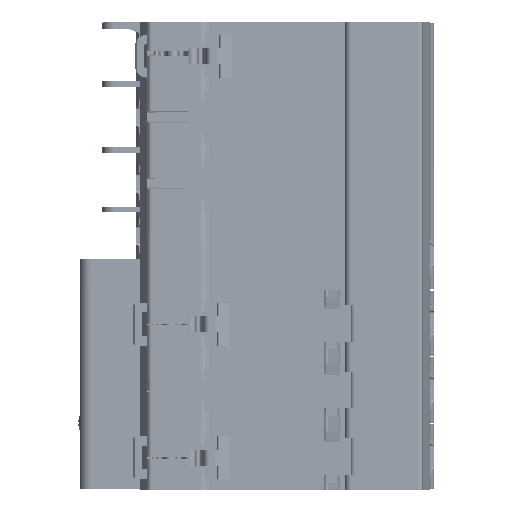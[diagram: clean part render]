
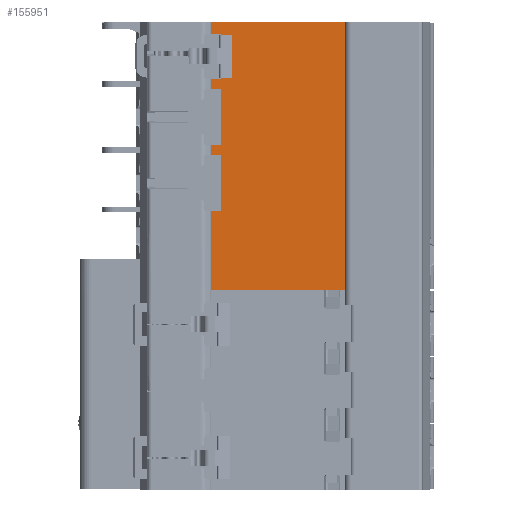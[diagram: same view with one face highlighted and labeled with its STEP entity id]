
A CAD part, front view. The second image highlights one B-rep face of the part: STEP entity #155951.
In plain terms, the highlighted planar face has unit normal (0, -1, 0).
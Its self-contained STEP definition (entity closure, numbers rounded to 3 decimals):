
#4322=DIRECTION('',(0.,0.,1.));
#4323=VECTOR('',#4322,71.1);
#4324=CARTESIAN_POINT('',(39.8,-37.,-14.4));
#4325=LINE('',#4324,#4323);
#4334=DIRECTION('',(1.,0.,0.));
#4335=VECTOR('',#4334,0.158);
#4336=CARTESIAN_POINT('',(5.4,-37.,53.25));
#4337=LINE('',#4336,#4335);
#4338=DIRECTION('',(-1.,0.,0.));
#4339=VECTOR('',#4338,2.6);
#4340=CARTESIAN_POINT('',(5.4,-37.,53.6));
#4341=LINE('',#4340,#4339);
#4342=DIRECTION('',(0.,0.,1.));
#4343=VECTOR('',#4342,3.1);
#4344=CARTESIAN_POINT('',(2.8,-37.,53.6));
#4345=LINE('',#4344,#4343);
#4346=DIRECTION('',(1.,0.,0.));
#4347=VECTOR('',#4346,37.);
#4348=CARTESIAN_POINT('',(2.8,-37.,56.7));
#4349=LINE('',#4348,#4347);
#4350=DIRECTION('',(-1.,0.,0.));
#4351=VECTOR('',#4350,37.);
#4352=CARTESIAN_POINT('',(39.8,-37.,-14.4));
#4353=LINE('',#4352,#4351);
#4354=DIRECTION('',(-1.,0.,0.));
#4355=VECTOR('',#4354,2.6);
#4356=CARTESIAN_POINT('',(5.4,-37.,21.4));
#4357=LINE('',#4356,#4355);
#4358=DIRECTION('',(0.,0.,1.));
#4359=VECTOR('',#4358,2.6);
#4360=CARTESIAN_POINT('',(2.8,-37.,21.4));
#4361=LINE('',#4360,#4359);
#4362=DIRECTION('',(-1.,0.,0.));
#4363=VECTOR('',#4362,2.6);
#4364=CARTESIAN_POINT('',(5.4,-37.,39.));
#4365=LINE('',#4364,#4363);
#4366=DIRECTION('',(0.,0.,1.));
#4367=VECTOR('',#4366,2.6);
#4368=CARTESIAN_POINT('',(2.8,-37.,39.));
#4369=LINE('',#4368,#4367);
#4370=DIRECTION('',(1.,0.,0.));
#4371=VECTOR('',#4370,0.158);
#4372=CARTESIAN_POINT('',(5.4,-37.,41.95));
#4373=LINE('',#4372,#4371);
#4374=DIRECTION('',(0.,0.,-1.));
#4375=VECTOR('',#4374,11.3);
#4376=CARTESIAN_POINT('',(5.558,-37.,53.25));
#4377=LINE('',#4376,#4375);
#4484=DIRECTION('',(0.,0.,-1.));
#4485=VECTOR('',#4484,0.35);
#4486=CARTESIAN_POINT('',(5.4,-37.,41.95));
#4487=LINE('',#4486,#4485);
#4488=DIRECTION('',(0.,0.,-1.));
#4489=VECTOR('',#4488,0.35);
#4490=CARTESIAN_POINT('',(5.4,-37.,53.6));
#4491=LINE('',#4490,#4489);
#5107=DIRECTION('',(-1.,0.,0.));
#5108=VECTOR('',#5107,2.6);
#5109=CARTESIAN_POINT('',(5.4,-37.,41.6));
#5110=LINE('',#5109,#5108);
#5245=DIRECTION('',(0.,0.,-1.));
#5246=VECTOR('',#5245,15.);
#5247=CARTESIAN_POINT('',(5.4,-37.,39.));
#5248=LINE('',#5247,#5246);
#5277=DIRECTION('',(-1.,0.,0.));
#5278=VECTOR('',#5277,2.6);
#5279=CARTESIAN_POINT('',(5.4,-37.,24.));
#5280=LINE('',#5279,#5278);
#5640=DIRECTION('',(0.,0.,-1.));
#5641=VECTOR('',#5640,15.);
#5642=CARTESIAN_POINT('',(5.4,-37.,21.4));
#5643=LINE('',#5642,#5641);
#5656=DIRECTION('',(-1.,0.,0.));
#5657=VECTOR('',#5656,2.6);
#5658=CARTESIAN_POINT('',(5.4,-37.,6.4));
#5659=LINE('',#5658,#5657);
#5689=DIRECTION('',(0.,0.,-1.));
#5690=VECTOR('',#5689,20.8);
#5691=CARTESIAN_POINT('',(2.8,-37.,6.4));
#5692=LINE('',#5691,#5690);
#117799=CARTESIAN_POINT('',(2.8,-37.,-14.4));
#117800=VERTEX_POINT('',#117799);
#117801=CARTESIAN_POINT('',(39.8,-37.,-14.4));
#117802=VERTEX_POINT('',#117801);
#119721=CARTESIAN_POINT('',(5.4,-37.,6.4));
#119722=CARTESIAN_POINT('',(2.8,-37.,6.4));
#119723=VERTEX_POINT('',#119721);
#119724=VERTEX_POINT('',#119722);
#120438=CARTESIAN_POINT('',(5.4,-37.,24.));
#120439=VERTEX_POINT('',#120438);
#120440=CARTESIAN_POINT('',(2.8,-37.,24.));
#120441=VERTEX_POINT('',#120440);
#120474=CARTESIAN_POINT('',(2.8,-37.,21.4));
#120475=VERTEX_POINT('',#120474);
#120476=CARTESIAN_POINT('',(5.4,-37.,21.4));
#120477=VERTEX_POINT('',#120476);
#120950=CARTESIAN_POINT('',(5.4,-37.,41.6));
#120951=VERTEX_POINT('',#120950);
#120952=CARTESIAN_POINT('',(2.8,-37.,41.6));
#120953=VERTEX_POINT('',#120952);
#120986=CARTESIAN_POINT('',(2.8,-37.,39.));
#120987=VERTEX_POINT('',#120986);
#120988=CARTESIAN_POINT('',(5.4,-37.,39.));
#120989=VERTEX_POINT('',#120988);
#122271=CARTESIAN_POINT('',(39.8,-37.,56.7));
#122272=VERTEX_POINT('',#122271);
#122273=CARTESIAN_POINT('',(2.8,-37.,56.7));
#122274=VERTEX_POINT('',#122273);
#122389=CARTESIAN_POINT('',(2.8,-37.,53.6));
#122390=VERTEX_POINT('',#122389);
#122391=CARTESIAN_POINT('',(5.4,-37.,53.6));
#122392=VERTEX_POINT('',#122391);
#126650=CARTESIAN_POINT('',(5.4,-37.,53.25));
#126651=CARTESIAN_POINT('',(5.558,-37.,53.25));
#126652=VERTEX_POINT('',#126650);
#126653=VERTEX_POINT('',#126651);
#126654=CARTESIAN_POINT('',(5.4,-37.,41.95));
#126655=CARTESIAN_POINT('',(5.558,-37.,41.95));
#126656=VERTEX_POINT('',#126654);
#126657=VERTEX_POINT('',#126655);
#155906=CARTESIAN_POINT('',(2.8,-37.,0.));
#155907=DIRECTION('',(0.,-1.,0.));
#155908=DIRECTION('',(1.,0.,0.));
#155909=AXIS2_PLACEMENT_3D('',#155906,#155907,#155908);
#155910=PLANE('',#155909);
#155912=ORIENTED_EDGE('',*,*,#155911,.F.);
#155914=ORIENTED_EDGE('',*,*,#155913,.F.);
#155916=ORIENTED_EDGE('',*,*,#155915,.T.);
#155918=ORIENTED_EDGE('',*,*,#155917,.T.);
#155920=ORIENTED_EDGE('',*,*,#155919,.T.);
#155921=ORIENTED_EDGE('',*,*,#155897,.F.);
#155922=ORIENTED_EDGE('',*,*,#152318,.T.);
#155924=ORIENTED_EDGE('',*,*,#155923,.F.);
#155926=ORIENTED_EDGE('',*,*,#155925,.F.);
#155928=ORIENTED_EDGE('',*,*,#155927,.F.);
#155930=ORIENTED_EDGE('',*,*,#155929,.T.);
#155932=ORIENTED_EDGE('',*,*,#155931,.T.);
#155934=ORIENTED_EDGE('',*,*,#155933,.F.);
#155936=ORIENTED_EDGE('',*,*,#155935,.F.);
#155938=ORIENTED_EDGE('',*,*,#155937,.T.);
#155940=ORIENTED_EDGE('',*,*,#155939,.T.);
#155942=ORIENTED_EDGE('',*,*,#155941,.F.);
#155944=ORIENTED_EDGE('',*,*,#155943,.F.);
#155946=ORIENTED_EDGE('',*,*,#155945,.T.);
#155948=ORIENTED_EDGE('',*,*,#155947,.F.);
#155949=EDGE_LOOP('',(#155912,#155914,#155916,#155918,#155920,#155921,#155922,
#155924,#155926,#155928,#155930,#155932,#155934,#155936,#155938,#155940,#155942,
#155944,#155946,#155948));
#155950=FACE_OUTER_BOUND('',#155949,.F.);
#155951=ADVANCED_FACE('',(#155950),#155910,.T.);
#152318=EDGE_CURVE('',#117802,#117800,#4353,.T.);
#155897=EDGE_CURVE('',#117802,#122272,#4325,.T.);
#155911=EDGE_CURVE('',#126652,#126653,#4337,.T.);
#155913=EDGE_CURVE('',#122392,#126652,#4491,.T.);
#155915=EDGE_CURVE('',#122392,#122390,#4341,.T.);
#155917=EDGE_CURVE('',#122390,#122274,#4345,.T.);
#155919=EDGE_CURVE('',#122274,#122272,#4349,.T.);
#155923=EDGE_CURVE('',#119724,#117800,#5692,.T.);
#155925=EDGE_CURVE('',#119723,#119724,#5659,.T.);
#155927=EDGE_CURVE('',#120477,#119723,#5643,.T.);
#155929=EDGE_CURVE('',#120477,#120475,#4357,.T.);
#155931=EDGE_CURVE('',#120475,#120441,#4361,.T.);
#155933=EDGE_CURVE('',#120439,#120441,#5280,.T.);
#155935=EDGE_CURVE('',#120989,#120439,#5248,.T.);
#155937=EDGE_CURVE('',#120989,#120987,#4365,.T.);
#155939=EDGE_CURVE('',#120987,#120953,#4369,.T.);
#155941=EDGE_CURVE('',#120951,#120953,#5110,.T.);
#155943=EDGE_CURVE('',#126656,#120951,#4487,.T.);
#155945=EDGE_CURVE('',#126656,#126657,#4373,.T.);
#155947=EDGE_CURVE('',#126653,#126657,#4377,.T.);
